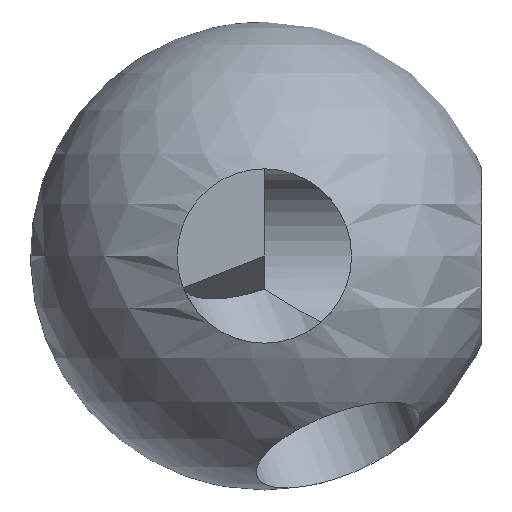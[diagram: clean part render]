
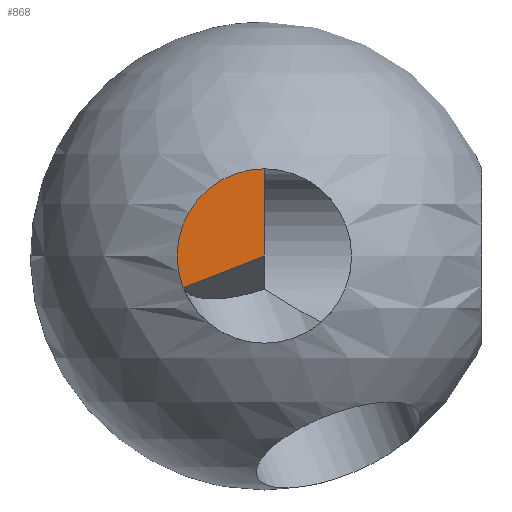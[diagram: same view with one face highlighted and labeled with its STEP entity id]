
A CAD part, front view. The second image highlights one B-rep face of the part: STEP entity #868.
In plain terms, the highlighted planar face has unit normal (0, -1, 0).
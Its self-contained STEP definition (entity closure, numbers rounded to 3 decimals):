
#323 = CYLINDRICAL_SURFACE('',#324,4.1);
#324 = AXIS2_PLACEMENT_3D('',#325,#326,#327);
#325 = CARTESIAN_POINT('',(0.,0.,0.));
#326 = DIRECTION('',(-0.,1.,-0.));
#327 = DIRECTION('',(-1.,-0.,-0.));
#410 = VERTEX_POINT('',#411);
#411 = CARTESIAN_POINT('',(-3.819,0.,
    -1.491));
#460 = PLANE('',#461);
#461 = AXIS2_PLACEMENT_3D('',#462,#463,#464);
#462 = CARTESIAN_POINT('',(0.,0.,
    0.));
#463 = DIRECTION('',(0.34,-0.357,-0.87));
#464 = DIRECTION('',(0.,0.925,-0.38));
#574 = VERTEX_POINT('',#575);
#575 = CARTESIAN_POINT('',(0.,0.,4.1));
#590 = PLANE('',#591);
#591 = AXIS2_PLACEMENT_3D('',#592,#593,#594);
#592 = CARTESIAN_POINT('',(0.,0.,
    0.));
#593 = DIRECTION('',(-1.,-0.,-0.));
#594 = DIRECTION('',(0.,0.,-1.));
#709 = VERTEX_POINT('',#710);
#710 = CARTESIAN_POINT('',(-4.1,0.,0.));
#731 = EDGE_CURVE('',#410,#709,#732,.T.);
#732 = SURFACE_CURVE('',#733,(#738,#745),.PCURVE_S1.);
#733 = CIRCLE('',#734,4.1);
#734 = AXIS2_PLACEMENT_3D('',#735,#736,#737);
#735 = CARTESIAN_POINT('',(0.,0.,0.));
#736 = DIRECTION('',(-0.,1.,0.));
#737 = DIRECTION('',(-1.,-0.,-0.));
#738 = PCURVE('',#323,#739);
#739 = DEFINITIONAL_REPRESENTATION('',(#740),#744);
#740 = LINE('',#741,#742);
#741 = CARTESIAN_POINT('',(0.,0.));
#742 = VECTOR('',#743,1.);
#743 = DIRECTION('',(1.,0.));
#744 = ( GEOMETRIC_REPRESENTATION_CONTEXT(2) 
PARAMETRIC_REPRESENTATION_CONTEXT() REPRESENTATION_CONTEXT('2D SPACE',''
  ) );
#745 = PCURVE('',#746,#751);
#746 = PLANE('',#747);
#747 = AXIS2_PLACEMENT_3D('',#748,#749,#750);
#748 = CARTESIAN_POINT('',(0.,0.,0.));
#749 = DIRECTION('',(0.,-1.,-0.));
#750 = DIRECTION('',(0.,0.,1.));
#751 = DEFINITIONAL_REPRESENTATION('',(#752),#760);
#752 = ( BOUNDED_CURVE() B_SPLINE_CURVE(2,(#753,#754,#755,#756,#757,#758
,#759),.UNSPECIFIED.,.T.,.F.) B_SPLINE_CURVE_WITH_KNOTS((1,2,2,2,2,1),(
    -2.094,0.,2.094,4.189,6.283,
8.378),.UNSPECIFIED.) CURVE() GEOMETRIC_REPRESENTATION_ITEM() 
RATIONAL_B_SPLINE_CURVE((1.,0.5,1.,0.5,1.,0.5,1.)) REPRESENTATION_ITEM(
  '') );
#753 = CARTESIAN_POINT('',(0.,4.1));
#754 = CARTESIAN_POINT('',(7.101,4.1));
#755 = CARTESIAN_POINT('',(3.551,-2.05));
#756 = CARTESIAN_POINT('',(0.,-8.2));
#757 = CARTESIAN_POINT('',(-3.551,-2.05));
#758 = CARTESIAN_POINT('',(-7.101,4.1));
#759 = CARTESIAN_POINT('',(0.,4.1));
#760 = ( GEOMETRIC_REPRESENTATION_CONTEXT(2) 
PARAMETRIC_REPRESENTATION_CONTEXT() REPRESENTATION_CONTEXT('2D SPACE',''
  ) );
#766 = EDGE_CURVE('',#709,#574,#767,.T.);
#767 = SURFACE_CURVE('',#768,(#773,#780),.PCURVE_S1.);
#768 = CIRCLE('',#769,4.1);
#769 = AXIS2_PLACEMENT_3D('',#770,#771,#772);
#770 = CARTESIAN_POINT('',(0.,0.,0.));
#771 = DIRECTION('',(-0.,1.,0.));
#772 = DIRECTION('',(-1.,-0.,-0.));
#773 = PCURVE('',#323,#774);
#774 = DEFINITIONAL_REPRESENTATION('',(#775),#779);
#775 = LINE('',#776,#777);
#776 = CARTESIAN_POINT('',(0.,0.));
#777 = VECTOR('',#778,1.);
#778 = DIRECTION('',(1.,0.));
#779 = ( GEOMETRIC_REPRESENTATION_CONTEXT(2) 
PARAMETRIC_REPRESENTATION_CONTEXT() REPRESENTATION_CONTEXT('2D SPACE',''
  ) );
#780 = PCURVE('',#746,#781);
#781 = DEFINITIONAL_REPRESENTATION('',(#782),#790);
#782 = ( BOUNDED_CURVE() B_SPLINE_CURVE(2,(#783,#784,#785,#786,#787,#788
,#789),.UNSPECIFIED.,.T.,.F.) B_SPLINE_CURVE_WITH_KNOTS((1,2,2,2,2,1),(
    -2.094,0.,2.094,4.189,6.283,
8.378),.UNSPECIFIED.) CURVE() GEOMETRIC_REPRESENTATION_ITEM() 
RATIONAL_B_SPLINE_CURVE((1.,0.5,1.,0.5,1.,0.5,1.)) REPRESENTATION_ITEM(
  '') );
#783 = CARTESIAN_POINT('',(0.,4.1));
#784 = CARTESIAN_POINT('',(7.101,4.1));
#785 = CARTESIAN_POINT('',(3.551,-2.05));
#786 = CARTESIAN_POINT('',(0.,-8.2));
#787 = CARTESIAN_POINT('',(-3.551,-2.05));
#788 = CARTESIAN_POINT('',(-7.101,4.1));
#789 = CARTESIAN_POINT('',(0.,4.1));
#790 = ( GEOMETRIC_REPRESENTATION_CONTEXT(2) 
PARAMETRIC_REPRESENTATION_CONTEXT() REPRESENTATION_CONTEXT('2D SPACE',''
  ) );
#798 = VERTEX_POINT('',#799);
#799 = CARTESIAN_POINT('',(0.,0.,0.));
#821 = EDGE_CURVE('',#798,#410,#822,.T.);
#822 = SURFACE_CURVE('',#823,(#827,#834),.PCURVE_S1.);
#823 = LINE('',#824,#825);
#824 = CARTESIAN_POINT('',(0.,0.,
    0.));
#825 = VECTOR('',#826,1.);
#826 = DIRECTION('',(-0.932,-0.,-0.364));
#827 = PCURVE('',#460,#828);
#828 = DEFINITIONAL_REPRESENTATION('',(#829),#833);
#829 = LINE('',#830,#831);
#830 = CARTESIAN_POINT('',(0.,0.));
#831 = VECTOR('',#832,1.);
#832 = DIRECTION('',(0.138,-0.99));
#833 = ( GEOMETRIC_REPRESENTATION_CONTEXT(2) 
PARAMETRIC_REPRESENTATION_CONTEXT() REPRESENTATION_CONTEXT('2D SPACE',''
  ) );
#834 = PCURVE('',#746,#835);
#835 = DEFINITIONAL_REPRESENTATION('',(#836),#840);
#836 = LINE('',#837,#838);
#837 = CARTESIAN_POINT('',(0.,0.));
#838 = VECTOR('',#839,1.);
#839 = DIRECTION('',(-0.364,0.932));
#840 = ( GEOMETRIC_REPRESENTATION_CONTEXT(2) 
PARAMETRIC_REPRESENTATION_CONTEXT() REPRESENTATION_CONTEXT('2D SPACE',''
  ) );
#848 = EDGE_CURVE('',#574,#798,#849,.T.);
#849 = SURFACE_CURVE('',#850,(#854,#861),.PCURVE_S1.);
#850 = LINE('',#851,#852);
#851 = CARTESIAN_POINT('',(0.,0.,0.));
#852 = VECTOR('',#853,1.);
#853 = DIRECTION('',(-0.,-0.,-1.));
#854 = PCURVE('',#590,#855);
#855 = DEFINITIONAL_REPRESENTATION('',(#856),#860);
#856 = LINE('',#857,#858);
#857 = CARTESIAN_POINT('',(-0.,0.));
#858 = VECTOR('',#859,1.);
#859 = DIRECTION('',(1.,-0.));
#860 = ( GEOMETRIC_REPRESENTATION_CONTEXT(2) 
PARAMETRIC_REPRESENTATION_CONTEXT() REPRESENTATION_CONTEXT('2D SPACE',''
  ) );
#861 = PCURVE('',#746,#862);
#862 = DEFINITIONAL_REPRESENTATION('',(#863),#867);
#863 = LINE('',#864,#865);
#864 = CARTESIAN_POINT('',(-0.,0.));
#865 = VECTOR('',#866,1.);
#866 = DIRECTION('',(-1.,0.));
#867 = ( GEOMETRIC_REPRESENTATION_CONTEXT(2) 
PARAMETRIC_REPRESENTATION_CONTEXT() REPRESENTATION_CONTEXT('2D SPACE',''
  ) );
#868 = ADVANCED_FACE('',(#869),#746,.T.);
#869 = FACE_BOUND('',#870,.F.);
#870 = EDGE_LOOP('',(#871,#872,#873,#874));
#871 = ORIENTED_EDGE('',*,*,#821,.T.);
#872 = ORIENTED_EDGE('',*,*,#731,.T.);
#873 = ORIENTED_EDGE('',*,*,#766,.T.);
#874 = ORIENTED_EDGE('',*,*,#848,.T.);
